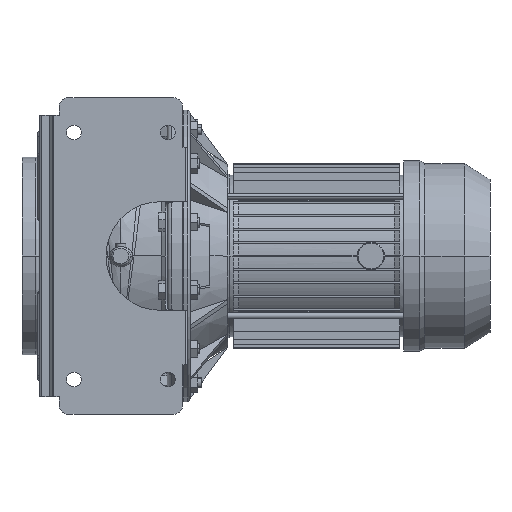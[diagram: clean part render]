
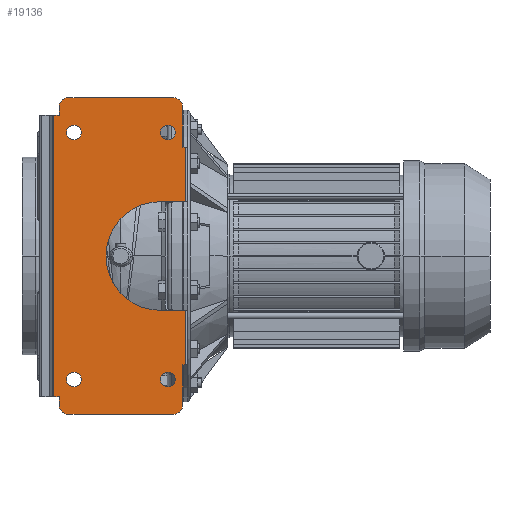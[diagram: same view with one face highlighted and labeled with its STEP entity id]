
A CAD part, front view. The second image highlights one B-rep face of the part: STEP entity #19136.
In plain terms, the highlighted planar face has unit normal (0, -1, 0).
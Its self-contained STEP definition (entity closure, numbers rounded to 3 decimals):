
#16195=CARTESIAN_POINT('',(47.5,-180.,-125.));
#16196=DIRECTION('',(0.,-1.,0.));
#16197=DIRECTION('',(1.,0.,0.));
#16198=AXIS2_PLACEMENT_3D('',#16195,#16196,#16197);
#16200=CARTESIAN_POINT('',(47.5,-180.,-125.));
#16201=DIRECTION('',(0.,-1.,0.));
#16202=DIRECTION('',(-1.,0.,0.));
#16203=AXIS2_PLACEMENT_3D('',#16200,#16201,#16202);
#16205=CARTESIAN_POINT('',(-47.5,-180.,-125.));
#16206=DIRECTION('',(0.,-1.,0.));
#16207=DIRECTION('',(1.,0.,0.));
#16208=AXIS2_PLACEMENT_3D('',#16205,#16206,#16207);
#16210=CARTESIAN_POINT('',(-47.5,-180.,-125.));
#16211=DIRECTION('',(0.,-1.,0.));
#16212=DIRECTION('',(-1.,0.,0.));
#16213=AXIS2_PLACEMENT_3D('',#16210,#16211,#16212);
#16215=CARTESIAN_POINT('',(47.5,-180.,125.));
#16216=DIRECTION('',(0.,-1.,0.));
#16217=DIRECTION('',(1.,0.,0.));
#16218=AXIS2_PLACEMENT_3D('',#16215,#16216,#16217);
#16220=CARTESIAN_POINT('',(47.5,-180.,125.));
#16221=DIRECTION('',(0.,-1.,0.));
#16222=DIRECTION('',(-1.,0.,0.));
#16223=AXIS2_PLACEMENT_3D('',#16220,#16221,#16222);
#16225=CARTESIAN_POINT('',(-47.5,-180.,125.));
#16226=DIRECTION('',(0.,-1.,0.));
#16227=DIRECTION('',(1.,0.,0.));
#16228=AXIS2_PLACEMENT_3D('',#16225,#16226,#16227);
#16230=CARTESIAN_POINT('',(-47.5,-180.,125.));
#16231=DIRECTION('',(0.,-1.,0.));
#16232=DIRECTION('',(-1.,0.,0.));
#16233=AXIS2_PLACEMENT_3D('',#16230,#16231,#16232);
#16235=DIRECTION('',(0.,0.,1.));
#16236=VECTOR('',#16235,55.);
#16237=CARTESIAN_POINT('',(65.5,-180.,-110.));
#16238=LINE('',#16237,#16236);
#16239=DIRECTION('',(0.,0.,-1.));
#16240=VECTOR('',#16239,41.);
#16241=CARTESIAN_POINT('',(62.5,-180.,-110.));
#16242=LINE('',#16241,#16240);
#16243=CARTESIAN_POINT('',(53.5,-180.,-151.));
#16244=DIRECTION('',(0.,-1.,0.));
#16245=DIRECTION('',(0.,0.,-1.));
#16246=AXIS2_PLACEMENT_3D('',#16243,#16244,#16245);
#16248=DIRECTION('',(-1.,0.,0.));
#16249=VECTOR('',#16248,107.);
#16250=CARTESIAN_POINT('',(53.5,-180.,-160.));
#16251=LINE('',#16250,#16249);
#16252=CARTESIAN_POINT('',(-53.5,-180.,-151.));
#16253=DIRECTION('',(0.,-1.,0.));
#16254=DIRECTION('',(-1.,0.,0.));
#16255=AXIS2_PLACEMENT_3D('',#16252,#16253,#16254);
#16257=DIRECTION('',(0.,0.,1.));
#16258=VECTOR('',#16257,8.5);
#16259=CARTESIAN_POINT('',(-62.5,-180.,-151.));
#16260=LINE('',#16259,#16258);
#16261=DIRECTION('',(-1.,0.,0.));
#16262=VECTOR('',#16261,5.172);
#16263=CARTESIAN_POINT('',(-62.5,-180.,-142.5));
#16264=LINE('',#16263,#16262);
#16265=DIRECTION('',(0.,0.,-1.));
#16266=VECTOR('',#16265,285.);
#16267=CARTESIAN_POINT('',(-67.672,-180.,142.5));
#16268=LINE('',#16267,#16266);
#16269=DIRECTION('',(1.,0.,0.));
#16270=VECTOR('',#16269,5.172);
#16271=CARTESIAN_POINT('',(-67.672,-180.,142.5));
#16272=LINE('',#16271,#16270);
#16273=DIRECTION('',(0.,0.,1.));
#16274=VECTOR('',#16273,8.5);
#16275=CARTESIAN_POINT('',(-62.5,-180.,142.5));
#16276=LINE('',#16275,#16274);
#16277=CARTESIAN_POINT('',(-53.5,-180.,151.));
#16278=DIRECTION('',(0.,-1.,0.));
#16279=DIRECTION('',(0.,0.,1.));
#16280=AXIS2_PLACEMENT_3D('',#16277,#16278,#16279);
#16282=DIRECTION('',(1.,0.,0.));
#16283=VECTOR('',#16282,107.);
#16284=CARTESIAN_POINT('',(-53.5,-180.,160.));
#16285=LINE('',#16284,#16283);
#16286=CARTESIAN_POINT('',(53.5,-180.,151.));
#16287=DIRECTION('',(0.,-1.,0.));
#16288=DIRECTION('',(1.,0.,0.));
#16289=AXIS2_PLACEMENT_3D('',#16286,#16287,#16288);
#16291=DIRECTION('',(0.,0.,-1.));
#16292=VECTOR('',#16291,41.);
#16293=CARTESIAN_POINT('',(62.5,-180.,151.));
#16294=LINE('',#16293,#16292);
#16295=DIRECTION('',(0.,0.,1.));
#16296=VECTOR('',#16295,55.);
#16297=CARTESIAN_POINT('',(65.5,-180.,55.));
#16298=LINE('',#16297,#16296);
#16299=CARTESIAN_POINT('',(40.,-180.,0.));
#16300=DIRECTION('',(0.,-1.,0.));
#16301=DIRECTION('',(0.,0.,1.));
#16302=AXIS2_PLACEMENT_3D('',#16299,#16300,#16301);
#16346=DIRECTION('',(1.,0.,0.));
#16347=VECTOR('',#16346,25.5);
#16348=CARTESIAN_POINT('',(40.,-180.,55.));
#16349=LINE('',#16348,#16347);
#16397=DIRECTION('',(-1.,0.,0.));
#16398=VECTOR('',#16397,25.5);
#16399=CARTESIAN_POINT('',(65.5,-180.,-55.));
#16400=LINE('',#16399,#16398);
#17220=DIRECTION('',(1.,0.,0.));
#17221=VECTOR('',#17220,3.);
#17222=CARTESIAN_POINT('',(62.5,-180.,-110.));
#17223=LINE('',#17222,#17221);
#17249=DIRECTION('',(-1.,0.,0.));
#17250=VECTOR('',#17249,3.);
#17251=CARTESIAN_POINT('',(65.5,-180.,110.));
#17252=LINE('',#17251,#17250);
#17983=CARTESIAN_POINT('',(-40.,-180.,125.));
#17984=CARTESIAN_POINT('',(-55.,-180.,125.));
#17985=VERTEX_POINT('',#17983);
#17986=VERTEX_POINT('',#17984);
#17987=CARTESIAN_POINT('',(55.,-180.,125.));
#17988=CARTESIAN_POINT('',(40.,-180.,125.));
#17989=VERTEX_POINT('',#17987);
#17990=VERTEX_POINT('',#17988);
#17991=CARTESIAN_POINT('',(-40.,-180.,-125.));
#17992=CARTESIAN_POINT('',(-55.,-180.,-125.));
#17993=VERTEX_POINT('',#17991);
#17994=VERTEX_POINT('',#17992);
#17995=CARTESIAN_POINT('',(55.,-180.,-125.));
#17996=CARTESIAN_POINT('',(40.,-180.,-125.));
#17997=VERTEX_POINT('',#17995);
#17998=VERTEX_POINT('',#17996);
#17999=CARTESIAN_POINT('',(40.,-180.,55.));
#18000=CARTESIAN_POINT('',(40.,-180.,-55.));
#18001=VERTEX_POINT('',#17999);
#18002=VERTEX_POINT('',#18000);
#18019=CARTESIAN_POINT('',(62.5,-180.,-110.));
#18021=VERTEX_POINT('',#18019);
#18023=CARTESIAN_POINT('',(-62.5,-180.,-142.5));
#18025=VERTEX_POINT('',#18023);
#18027=CARTESIAN_POINT('',(-62.5,-180.,142.5));
#18029=VERTEX_POINT('',#18027);
#18031=CARTESIAN_POINT('',(62.5,-180.,110.));
#18033=VERTEX_POINT('',#18031);
#18040=CARTESIAN_POINT('',(-62.5,-180.,151.));
#18042=VERTEX_POINT('',#18040);
#18045=CARTESIAN_POINT('',(-53.5,-180.,160.));
#18046=VERTEX_POINT('',#18045);
#18048=CARTESIAN_POINT('',(53.5,-180.,160.));
#18050=VERTEX_POINT('',#18048);
#18053=CARTESIAN_POINT('',(62.5,-180.,151.));
#18054=VERTEX_POINT('',#18053);
#18056=CARTESIAN_POINT('',(62.5,-180.,-151.));
#18058=VERTEX_POINT('',#18056);
#18061=CARTESIAN_POINT('',(53.5,-180.,-160.));
#18062=VERTEX_POINT('',#18061);
#18064=CARTESIAN_POINT('',(-53.5,-180.,-160.));
#18066=VERTEX_POINT('',#18064);
#18069=CARTESIAN_POINT('',(-62.5,-180.,-151.));
#18070=VERTEX_POINT('',#18069);
#18179=CARTESIAN_POINT('',(65.5,-180.,55.));
#18181=VERTEX_POINT('',#18179);
#18183=CARTESIAN_POINT('',(65.5,-180.,-55.));
#18185=VERTEX_POINT('',#18183);
#18187=CARTESIAN_POINT('',(65.5,-180.,-110.));
#18188=VERTEX_POINT('',#18187);
#18189=CARTESIAN_POINT('',(65.5,-180.,110.));
#18190=VERTEX_POINT('',#18189);
#18203=CARTESIAN_POINT('',(-67.672,-180.,-142.5));
#18205=VERTEX_POINT('',#18203);
#18209=CARTESIAN_POINT('',(-67.672,-180.,142.5));
#18210=VERTEX_POINT('',#18209);
#19068=CARTESIAN_POINT('',(67.5,-180.,55.));
#19069=DIRECTION('',(0.,1.,0.));
#19070=DIRECTION('',(0.,0.,1.));
#19071=AXIS2_PLACEMENT_3D('',#19068,#19069,#19070);
#19072=PLANE('',#19071);
#19074=ORIENTED_EDGE('',*,*,#19073,.F.);
#19076=ORIENTED_EDGE('',*,*,#19075,.F.);
#19078=ORIENTED_EDGE('',*,*,#19077,.T.);
#19080=ORIENTED_EDGE('',*,*,#19079,.F.);
#19082=ORIENTED_EDGE('',*,*,#19081,.T.);
#19084=ORIENTED_EDGE('',*,*,#19083,.F.);
#19086=ORIENTED_EDGE('',*,*,#19085,.T.);
#19087=ORIENTED_EDGE('',*,*,#18714,.T.);
#19089=ORIENTED_EDGE('',*,*,#19088,.F.);
#19090=ORIENTED_EDGE('',*,*,#18763,.T.);
#19092=ORIENTED_EDGE('',*,*,#19091,.T.);
#19094=ORIENTED_EDGE('',*,*,#19093,.F.);
#19096=ORIENTED_EDGE('',*,*,#19095,.T.);
#19098=ORIENTED_EDGE('',*,*,#19097,.F.);
#19100=ORIENTED_EDGE('',*,*,#19099,.T.);
#19102=ORIENTED_EDGE('',*,*,#19101,.F.);
#19104=ORIENTED_EDGE('',*,*,#19103,.F.);
#19106=ORIENTED_EDGE('',*,*,#19105,.F.);
#19108=ORIENTED_EDGE('',*,*,#19107,.T.);
#19110=ORIENTED_EDGE('',*,*,#19109,.F.);
#19111=EDGE_LOOP('',(#19074,#19076,#19078,#19080,#19082,#19084,#19086,#19087,
#19089,#19090,#19092,#19094,#19096,#19098,#19100,#19102,#19104,#19106,#19108,
#19110));
#19112=FACE_OUTER_BOUND('',#19111,.F.);
#19114=ORIENTED_EDGE('',*,*,#19113,.T.);
#19116=ORIENTED_EDGE('',*,*,#19115,.T.);
#19117=EDGE_LOOP('',(#19114,#19116));
#19118=FACE_BOUND('',#19117,.F.);
#19120=ORIENTED_EDGE('',*,*,#19119,.T.);
#19122=ORIENTED_EDGE('',*,*,#19121,.T.);
#19123=EDGE_LOOP('',(#19120,#19122));
#19124=FACE_BOUND('',#19123,.F.);
#19126=ORIENTED_EDGE('',*,*,#19125,.T.);
#19128=ORIENTED_EDGE('',*,*,#19127,.T.);
#19129=EDGE_LOOP('',(#19126,#19128));
#19130=FACE_BOUND('',#19129,.F.);
#19131=ORIENTED_EDGE('',*,*,#19058,.T.);
#19133=ORIENTED_EDGE('',*,*,#19132,.T.);
#19134=EDGE_LOOP('',(#19131,#19133));
#19135=FACE_BOUND('',#19134,.F.);
#19136=ADVANCED_FACE('',(#19112,#19118,#19124,#19130,#19135),#19072,.F.);
#16199=CIRCLE('',#16198,7.5);
#16204=CIRCLE('',#16203,7.5);
#16209=CIRCLE('',#16208,7.5);
#16214=CIRCLE('',#16213,7.5);
#16219=CIRCLE('',#16218,7.5);
#16224=CIRCLE('',#16223,7.5);
#16229=CIRCLE('',#16228,7.5);
#16234=CIRCLE('',#16233,7.5);
#16247=CIRCLE('',#16246,9.);
#16256=CIRCLE('',#16255,9.);
#16281=CIRCLE('',#16280,9.);
#16290=CIRCLE('',#16289,9.);
#16303=CIRCLE('',#16302,55.);
#18714=EDGE_CURVE('',#18025,#18205,#16264,.T.);
#18763=EDGE_CURVE('',#18210,#18029,#16272,.T.);
#19058=EDGE_CURVE('',#17985,#17986,#16229,.T.);
#19073=EDGE_CURVE('',#18188,#18185,#16238,.T.);
#19075=EDGE_CURVE('',#18021,#18188,#17223,.T.);
#19077=EDGE_CURVE('',#18021,#18058,#16242,.T.);
#19079=EDGE_CURVE('',#18062,#18058,#16247,.T.);
#19081=EDGE_CURVE('',#18062,#18066,#16251,.T.);
#19083=EDGE_CURVE('',#18070,#18066,#16256,.T.);
#19085=EDGE_CURVE('',#18070,#18025,#16260,.T.);
#19088=EDGE_CURVE('',#18210,#18205,#16268,.T.);
#19091=EDGE_CURVE('',#18029,#18042,#16276,.T.);
#19093=EDGE_CURVE('',#18046,#18042,#16281,.T.);
#19095=EDGE_CURVE('',#18046,#18050,#16285,.T.);
#19097=EDGE_CURVE('',#18054,#18050,#16290,.T.);
#19099=EDGE_CURVE('',#18054,#18033,#16294,.T.);
#19101=EDGE_CURVE('',#18190,#18033,#17252,.T.);
#19103=EDGE_CURVE('',#18181,#18190,#16298,.T.);
#19105=EDGE_CURVE('',#18001,#18181,#16349,.T.);
#19107=EDGE_CURVE('',#18001,#18002,#16303,.T.);
#19109=EDGE_CURVE('',#18185,#18002,#16400,.T.);
#19113=EDGE_CURVE('',#17997,#17998,#16199,.T.);
#19115=EDGE_CURVE('',#17998,#17997,#16204,.T.);
#19119=EDGE_CURVE('',#17993,#17994,#16209,.T.);
#19121=EDGE_CURVE('',#17994,#17993,#16214,.T.);
#19125=EDGE_CURVE('',#17989,#17990,#16219,.T.);
#19127=EDGE_CURVE('',#17990,#17989,#16224,.T.);
#19132=EDGE_CURVE('',#17986,#17985,#16234,.T.);
